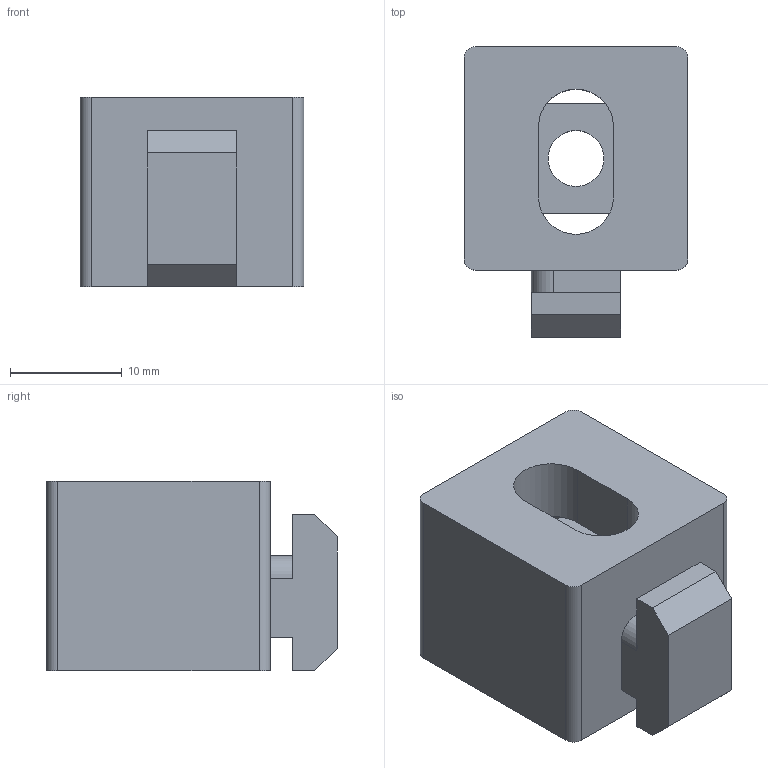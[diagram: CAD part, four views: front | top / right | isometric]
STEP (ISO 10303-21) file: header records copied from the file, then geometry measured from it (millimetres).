
FILE_DESCRIPTION (( 'STEP AP203' ), '1' );
FILE_NAME ('CP-MB6_8-30X30.STEP', '2018-09-03T09:02:31', ( '' ), ( '' ), 'SwSTEP 2.0', 'SolidWorks 2013', '' );
FILE_SCHEMA (( 'CONFIG_CONTROL_DESIGN' ));
Length unit declared in the file: millimetre
Products named in the file (1): CP-MB6_8-30X30
Bounding box: 20 x 26 x 17 mm (x, y, z)
Volume: 5826.1 mm3; surface area: 3463.9 mm2
Topology: 2 solids, 2 shells, 48 faces, 126 edges, 84 vertices
Faces by surface type: plane 32, cylinder 16
Entity records: 1571 total; most frequent: CARTESIAN_POINT 259, DIRECTION 256, ORIENTED_EDGE 252, EDGE_CURVE 126, LINE 94, VECTOR 94, VERTEX_POINT 84, AXIS2_PLACEMENT_3D 81
